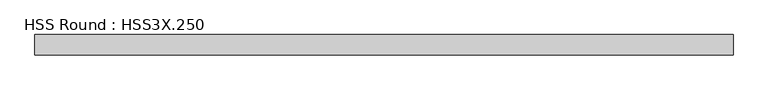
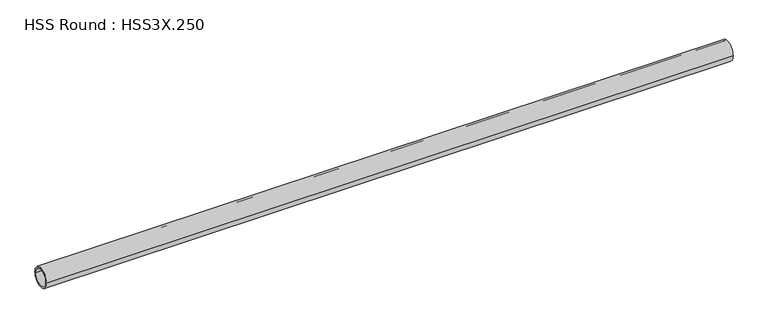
"""IFC4 building model written with IfcOpenShell, lengths in millimetres: member geometry, HSS Round : HSS3X.250."""

from ifc_helpers import new_model, si_unit, point, frame, origin, origin_2d, place, context, project, spatial, circle_curve, trimmed, segment, composite_curve, outline, extrude, source, transform, mapped, element, save


def hss_round_hss3x_250_e2de842f(model_context):
    return source(origin(), model_context, "Body", "SweptSolid", [
        extrude(outline(composite_curve([segment(trimmed(circle_curve(origin_2d(), 38.1), [point((-38.1, 0.0))], [point((38.1, 0.0))], False, "CARTESIAN"), True, "CONTINUOUS"), segment(trimmed(circle_curve(origin_2d(), 38.1), [point((38.1, 0.0))], [point((-38.1, 0.0))], False, "CARTESIAN"), True, "CONTINUOUS")], self_intersect=False), holes=[composite_curve([segment(trimmed(circle_curve(origin_2d(), 31.75), [point((31.75, 0.0))], [point((-31.75, 0.0))], True, "CARTESIAN"), True, "CONTINUOUS"), segment(trimmed(circle_curve(origin_2d(), 31.75), [point((-31.75, 0.0))], [point((31.75, 0.0))], True, "CARTESIAN"), True, "CONTINUOUS")], self_intersect=False)]), frame((-1360.5991996, 0.0, 0.0), z_axis=(1.0, 0.0, 0.0), x_axis=(0.0, 1.0, 0.0)), (0.0, 0.0, 1.0), 2619.4432611),
    ])


if __name__ == "__main__":
    model = new_model("IFC4")
    model_context = context("Model", 3, world=origin())
    ifc_project = project(units=[si_unit("LENGTHUNIT", "METRE", prefix="MILLI")], contexts=[model_context])
    site = spatial("IfcSite", under=ifc_project)
    building = spatial("IfcBuilding", under=site)
    placement = place(None, origin())
    hss_round_hss3x_250_shape = hss_round_hss3x_250_e2de842f(model_context)
    element("IfcMember", 1, ObjectType="HSS Round : HSS3X.250", at=placement, inside=building, context=model_context, shape_type="MappedRepresentation", body=[
        mapped(hss_round_hss3x_250_shape, transform((0.0, 0.0, 0.0), x_axis=(1.0, 0.0, 0.0), y_axis=(0.0, 1.0, 0.0), z_axis=(0.0, 0.0, 1.0))),
    ])
    save(model, "model.ifc")
